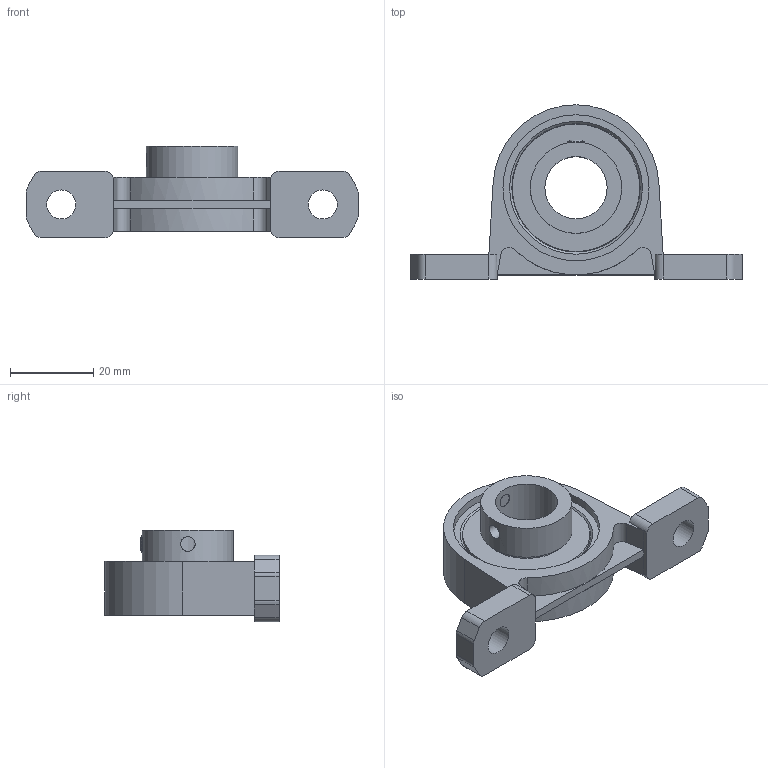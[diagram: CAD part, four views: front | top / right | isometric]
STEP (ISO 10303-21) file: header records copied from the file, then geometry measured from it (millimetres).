
FILE_DESCRIPTION((''),'2;1');
FILE_NAME('\\Ts-tgl068\J-Cad-D-BASE\00.3DCADデータ作成フォルダ\11.エコシリーズ\MUSP000\MUSP002.stp','2014-11-12T09:19:16',('btec_1106_2'),(''),'Autodesk Inventor 2012','Autodesk Inventor 2012','');
FILE_SCHEMA(('AUTOMOTIVE_DESIGN { 1 0 10303 214 1 1 1 1 }'));
Length unit declared in the file: millimetre
Products named in the file (3): MUSP000; SP002; U002
Assembly tree (2 placements, depth 2):
  MUSP000
    SP002
    U002
Bounding box: 80 x 42 x 22 mm (x, y, z)
Volume: 17773.7 mm3; surface area: 10359.2 mm2
Topology: 2 solids, 2 shells, 79 faces, 202 edges, 132 vertices
Faces by surface type: plane 44, cylinder 30, cone 3, sphere 2
Full cylindrical faces by diameter (mm): 3.5 x1, 4 x1, 7 x2, 15 x1, 20.1 x1, 22 x1, 35.2 x2
Entity records: 2490 total; most frequent: CARTESIAN_POINT 524, DIRECTION 410, ORIENTED_EDGE 360, EDGE_CURVE 180, AXIS2_PLACEMENT_3D 152, VERTEX_POINT 126, EDGE_LOOP 110, VECTOR 106
